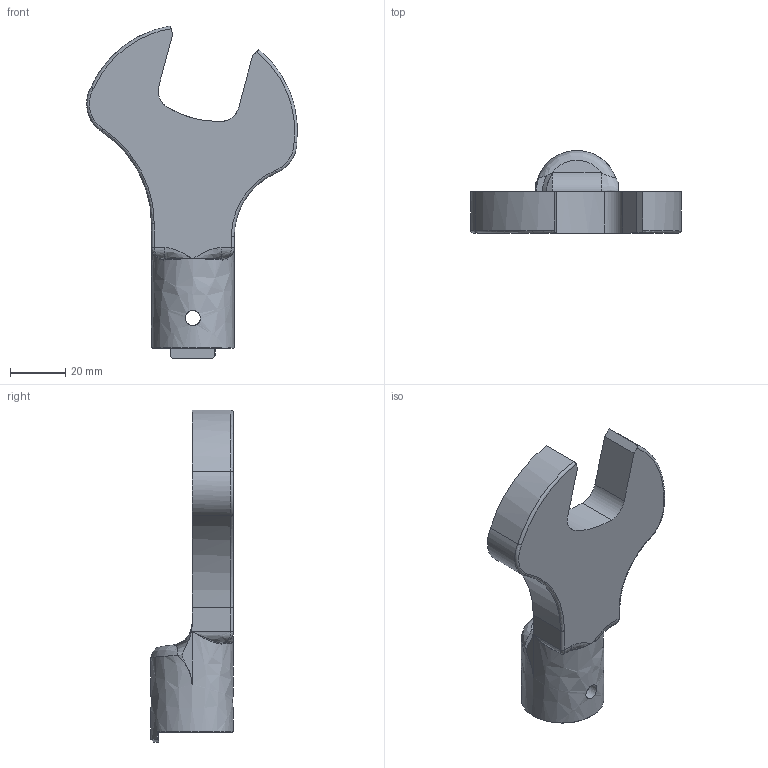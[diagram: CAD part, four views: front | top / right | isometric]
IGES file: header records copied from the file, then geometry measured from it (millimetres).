
Global section: file name: SH22DX30; native system: Autodesk Inventor 2016; preprocessor: unknown; author: Q600; date: 20151029.174812; units: millimetre
Bounding box: 76.33 x 30 x 120.32 mm (x, y, z)
Volume: 63371.5 mm3; surface area: 16682.8 mm2
Topology: 1 solids, 1 shells, 63 faces, 171 edges, 101 vertices
Faces by surface type: bspline 63
